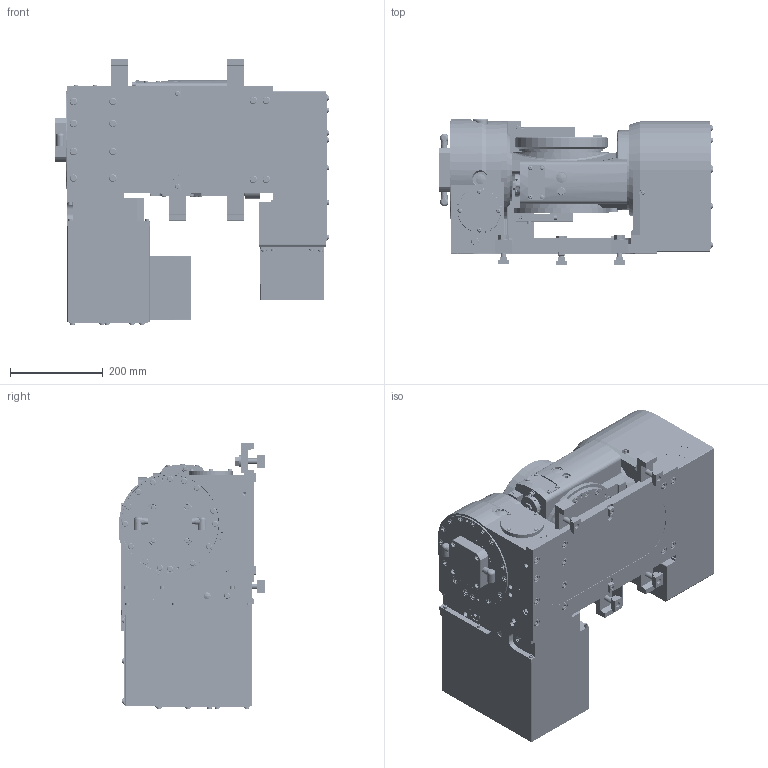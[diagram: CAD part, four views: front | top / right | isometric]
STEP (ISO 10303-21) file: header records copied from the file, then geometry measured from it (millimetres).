
FILE_DESCRIPTION (( 'STEP AP214' ), '1' );
FILE_NAME ('【掲載用】TT200付加軸RJ付.STEP', '2019-10-10T07:17:07', ( '' ), ( '' ), 'SwSTEP 2.0', 'SolidWorks 2017', '' );
FILE_SCHEMA (( 'AUTOMOTIVE_DESIGN' ));
Length unit declared in the file: millimetre
Products named in the file (75): Bアナツキ M6×12; BODY_RJ(61E272856)TT200B00; Sトメヒラ　M10×16; ボデー2（61E114314）_回転モデル; ガイドブロック(61M4197781); RJ40FTT200(61E8346510); アナプラグ 02; BASE_TT200BFR; Sナベ　パーカ　M5×8; Bアナツキ M6×25; アナプラグ01; RJ50TT200僋儈僞僥(61E825967); Wシール　5S1; Bアナツキ M5×20; 僣僶僣僉僾儔僌GFO M16x1.5; イケイエルボ NR-202 ムサシ; Bアナツキ M6×16; ブロックB2; オイルゲージ 207; ブロック(61E825405); オイルマド（61E476860）; 僽儘僢僋A(61E381347)2; ギヤーボックス2（61E113904）; キタガワシール; オイルゲージ 257; Bアナツキ M8×30; ササエ PAD; SMC KQ2E06-02; オイルゲージ　KMH-3; 僔儕儞僟2乮61E824981乯; 俽僩儊僸儔丂M8亊16; コネクタカバー（61E3639910）; 僇僶乕A2乮61E476852乯; S僒儔僷乕僇_S蛔 蔬岸 M6X12; Bアナツキ M8×16; コネクタプレート（61E4465853）TB200A4F24; ベアリングプッシュプレートT2（61E824983）; クッション(61X432183); グリスニップル A M6; コネクタプレート(61E4571940)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
Assembly tree (228 placements, depth 5):
  【掲載用】TT200付加軸RJ付
    BASE_TT200BFR
      BASE(61E113899)TT200B00_プレート特殊
        傾斜本体ASSY(61E272855)_回転モデル
          ベース2（61E113899）_回転モデル
          僔儕儞僟T2乮61E824979乯
          ベアリングプッシュプレートT2（61E824983）
          僇僶乕A2乮61E476852乯
          オイルゲージ　KMH-3
          オイルゲージ 257
          オイルマド（61E476860）
          Bアナツキ M6×16  x14
          Wシール　5S1  x4
          Sナベ　パーカ　M5×8  x4
          ガイドブロック(61M4197781)  x2
          Bアナツキ M6×12  x2
          僣僶僣僉僾儔僌GFO M20x1.5
          傾僫僾儔僌NPTF 1_16  x5
          Wシール SUS　8S1  x15
          Bアナツキ M8×35  x15
          B傾僫僣僉僥僀僩僂SSH-M5亊8  x4
          俽僩儊僸儔丂M8亊8
        ササエ PAD
          僒僒僄2乮61E272272乯
          クッション(61E440201)
          グリスニップル A M6
          ガイドブロック(61M4197781)
          Bアナツキ M6×12
          Bアナツキ M8×16
          俽僩儊僸儔丂M8亊16
        ギアボックスPAD
          ギヤーボックス2（61E113904）
          オイルゲージ 207
          僣僶僣僉僾儔僌GFO M16x1.5
          アナプラグ01  x4
          アナプラグ 02
          Sトメヒラ　M10×16  x2
          傾僫僾儔僌NPTF 1_16
          Bアナツキ M6×20  x3
          Bアナツキ M5×16  x6
          Wヒラ　パーカ5  x3
      プレート(61E2776011)TT200BF-02
      ガイドブロック(61M4198752)  x2
      モータケース(61E277611)TT200BF-02
      モータケース(61E281560)TT200BF-02(旧61E277633)
      コネクタプレート(61E4571940)
      コネクタプレート（61E4465853）TB200A4F24
      コネクタカバー（61E3639910）  x2
      SMC KQ2E06-02  x3
      キタガワシール
      RJ50TT200僋儈僞僥(61E825967)
        ブロック(61E825405)
        イケイエルボ NR-202 ムサシ  x2
    BODY_RJ(61E272856)TT200B00
      ボデー2（61E114314）_回転モデル
      ベアリングプッシュプレート（61E824984）
      モータフランジ2(61E272313)_回転モデル
      アナプラグ 03
      僇僶乕俙乮61E476759乯  x2
      僇僶乕B乮61E476760乯
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Bounding box: 590.8 x 312.6 x 574.8 mm (x, y, z)
Volume: 44165629.1 mm3; surface area: 3063578.2 mm2
Topology: 220 solids, 223 shells, 8397 faces, 19656 edges, 12324 vertices
Faces by surface type: plane 4298, cylinder 2700, cone 1098, torus 247, sphere 40, bspline 14
Entity records: 188524 total; most frequent: CARTESIAN_POINT 32311, DIRECTION 30391, ORIENTED_EDGE 27744, EDGE_CURVE 13872, AXIS2_PLACEMENT_3D 10702, VECTOR 8987, LINE 8987, VERTEX_POINT 8986
